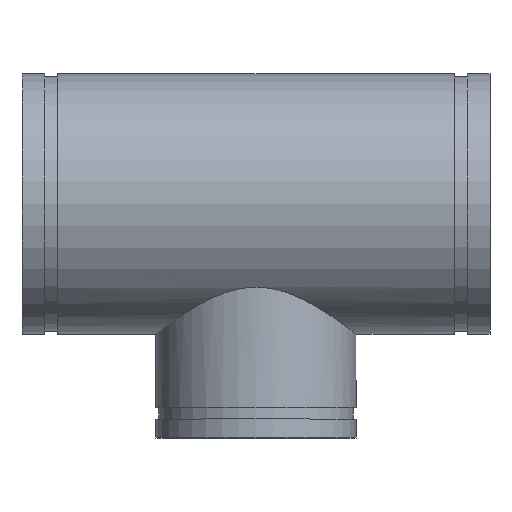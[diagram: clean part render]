
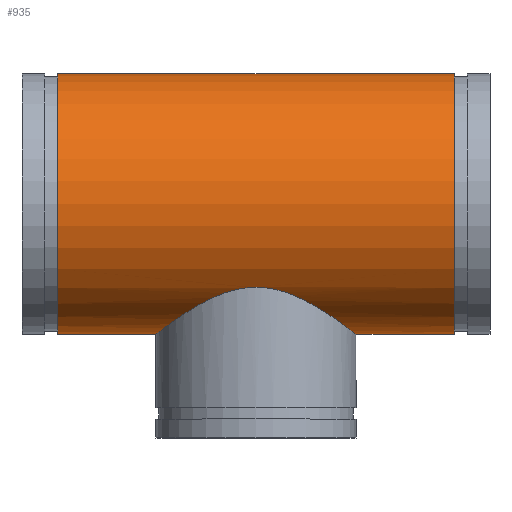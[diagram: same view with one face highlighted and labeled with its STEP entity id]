
A CAD part, top view. The second image highlights one B-rep face of the part: STEP entity #935.
In plain terms, the highlighted cylindrical face has radius 109.537 mm (diameter 219.075 mm), a full revolution.
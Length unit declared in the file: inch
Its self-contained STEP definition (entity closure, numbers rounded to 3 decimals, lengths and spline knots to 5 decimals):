
#61=FACE_BOUND('',#222,.T.);
#67=B_SPLINE_CURVE_WITH_KNOTS('',3,(#1807,#1808,#1809,#1810,#1811,#1812,
#1813,#1814,#1815,#1816,#1817,#1818,#1819,#1820,#1821,#1822,#1823,#1824),
 .UNSPECIFIED.,.F.,.F.,(4,2,2,2,2,2,2,2,4),(0.,1.70492,3.40983,
5.11475,6.81966,8.48329,10.14692,11.81055,
13.47418),.UNSPECIFIED.);
#68=B_SPLINE_CURVE_WITH_KNOTS('',3,(#1825,#1826,#1827,#1828,#1829,#1830,
#1831,#1832,#1833,#1834,#1835,#1836,#1837,#1838,#1839,#1840,#1841,#1842,
#1843,#1844,#1845,#1846,#1847,#1848,#1849,#1850,#1851,#1852,#1853,#1854,
#1855,#1856,#1857,#1858,#1859,#1860,#1861,#1862,#1863,#1864,#1865,#1866,
#1867,#1868,#1869,#1870,#1871,#1872,#1873,#1874),.UNSPECIFIED.,.F.,.F.,
(4,2,2,2,2,2,2,2,2,2,2,2,2,2,2,2,2,2,2,2,2,2,2,2,4),(13.47418,15.13781,
16.80144,18.46507,20.1287,21.83362,23.53853,
25.24345,26.94836,28.65328,30.35819,32.06311,
33.76802,35.43165,37.09528,38.75891,40.42254,
42.08617,43.7498,45.41343,47.07706,48.78198,
50.48689,52.19181,53.89672),.UNSPECIFIED.);
#81=CYLINDRICAL_SURFACE('',#1104,4.3125);
#103=LINE('',#1804,#125);
#125=VECTOR('',#1432,4.3125);
#171=FACE_OUTER_BOUND('',#221,.T.);
#221=EDGE_LOOP('',(#814,#815,#816,#817));
#222=EDGE_LOOP('',(#818,#819));
#326=CIRCLE('',#1087,4.3125);
#337=CIRCLE('',#1103,4.3125);
#424=VERTEX_POINT('',#1772);
#435=VERTEX_POINT('',#1801);
#436=VERTEX_POINT('',#1805);
#437=VERTEX_POINT('',#1806);
#552=EDGE_CURVE('',#424,#424,#326,.T.);
#565=EDGE_CURVE('',#435,#435,#337,.T.);
#566=EDGE_CURVE('',#435,#424,#103,.T.);
#567=EDGE_CURVE('',#436,#437,#67,.T.);
#568=EDGE_CURVE('',#437,#436,#68,.T.);
#814=ORIENTED_EDGE('',*,*,#565,.T.);
#815=ORIENTED_EDGE('',*,*,#566,.T.);
#816=ORIENTED_EDGE('',*,*,#552,.T.);
#817=ORIENTED_EDGE('',*,*,#566,.F.);
#818=ORIENTED_EDGE('',*,*,#567,.T.);
#819=ORIENTED_EDGE('',*,*,#568,.T.);
#935=ADVANCED_FACE('',(#171,#61),#81,.T.);
#1087=AXIS2_PLACEMENT_3D('',#1773,#1394,#1395);
#1103=AXIS2_PLACEMENT_3D('',#1802,#1428,#1429);
#1104=AXIS2_PLACEMENT_3D('',#1803,#1430,#1431);
#1394=DIRECTION('center_axis',(-1.,0.,0.));
#1395=DIRECTION('ref_axis',(0.,-1.,0.));
#1428=DIRECTION('center_axis',(1.,0.,0.));
#1429=DIRECTION('ref_axis',(0.,-1.,0.));
#1430=DIRECTION('center_axis',(-1.,0.,0.));
#1431=DIRECTION('ref_axis',(0.,-1.,0.));
#1432=DIRECTION('',(1.,0.,0.));
#1772=CARTESIAN_POINT('',(6.562,4.3125,0.));
#1773=CARTESIAN_POINT('Origin',(6.562,0.,0.));
#1801=CARTESIAN_POINT('',(-6.562,4.3125,0.));
#1802=CARTESIAN_POINT('Origin',(-6.562,0.,0.));
#1803=CARTESIAN_POINT('Origin',(7.75,0.,0.));
#1804=CARTESIAN_POINT('',(7.75,4.3125,0.));
#1805=CARTESIAN_POINT('',(0.,-2.76134,-3.3125));
#1806=CARTESIAN_POINT('',(-3.3125,-4.3125,0.));
#1807=CARTESIAN_POINT('Ctrl Pts',(0.,-2.76134,
-3.3125));
#1808=CARTESIAN_POINT('Ctrl Pts',(-0.22374,-2.76134,
-3.3125));
#1809=CARTESIAN_POINT('Ctrl Pts',(-0.44747,-2.78936,
-3.28964));
#1810=CARTESIAN_POINT('Ctrl Pts',(-0.8824,-2.89118,
-3.20052));
#1811=CARTESIAN_POINT('Ctrl Pts',(-1.09373,-2.9645,-3.13431));
#1812=CARTESIAN_POINT('Ctrl Pts',(-1.49486,-3.13474,-2.96404));
#1813=CARTESIAN_POINT('Ctrl Pts',(-1.68501,-3.23156,-2.85982));
#1814=CARTESIAN_POINT('Ctrl Pts',(-2.03681,-3.42816,-2.62093));
#1815=CARTESIAN_POINT('Ctrl Pts',(-2.19842,-3.52789,-2.48616));
#1816=CARTESIAN_POINT('Ctrl Pts',(-2.48268,-3.71177,-2.2019));
#1817=CARTESIAN_POINT('Ctrl Pts',(-2.61665,-3.80324,-2.04232));
#1818=CARTESIAN_POINT('Ctrl Pts',(-2.85644,-3.97203,-1.69076));
#1819=CARTESIAN_POINT('Ctrl Pts',(-2.96227,-4.04928,-1.49876));
#1820=CARTESIAN_POINT('Ctrl Pts',(-3.13483,-4.17718,-1.09276));
#1821=CARTESIAN_POINT('Ctrl Pts',(-3.20172,-4.2279,-0.87831));
#1822=CARTESIAN_POINT('Ctrl Pts',(-3.29057,-4.29558,-0.44109));
#1823=CARTESIAN_POINT('Ctrl Pts',(-3.3125,-4.3125,-0.21832));
#1824=CARTESIAN_POINT('Ctrl Pts',(-3.3125,-4.3125,0.));
#1825=CARTESIAN_POINT('Ctrl Pts',(-3.3125,-4.3125,0.));
#1826=CARTESIAN_POINT('Ctrl Pts',(-3.3125,-4.3125,0.21832));
#1827=CARTESIAN_POINT('Ctrl Pts',(-3.29057,-4.29558,0.44109));
#1828=CARTESIAN_POINT('Ctrl Pts',(-3.20172,-4.2279,0.87831));
#1829=CARTESIAN_POINT('Ctrl Pts',(-3.13483,-4.17718,1.09276));
#1830=CARTESIAN_POINT('Ctrl Pts',(-2.96227,-4.04928,1.49876));
#1831=CARTESIAN_POINT('Ctrl Pts',(-2.85644,-3.97203,1.69076));
#1832=CARTESIAN_POINT('Ctrl Pts',(-2.61665,-3.80324,2.04232));
#1833=CARTESIAN_POINT('Ctrl Pts',(-2.48268,-3.71177,2.2019));
#1834=CARTESIAN_POINT('Ctrl Pts',(-2.19842,-3.52789,2.48616));
#1835=CARTESIAN_POINT('Ctrl Pts',(-2.03681,-3.42816,2.62093));
#1836=CARTESIAN_POINT('Ctrl Pts',(-1.68501,-3.23156,2.85982));
#1837=CARTESIAN_POINT('Ctrl Pts',(-1.49486,-3.13474,2.96404));
#1838=CARTESIAN_POINT('Ctrl Pts',(-1.09373,-2.9645,3.13431));
#1839=CARTESIAN_POINT('Ctrl Pts',(-0.8824,-2.89118,
3.20052));
#1840=CARTESIAN_POINT('Ctrl Pts',(-0.44747,-2.78936,
3.28964));
#1841=CARTESIAN_POINT('Ctrl Pts',(-0.22374,-2.76134,
3.3125));
#1842=CARTESIAN_POINT('Ctrl Pts',(0.22374,-2.76134,3.3125));
#1843=CARTESIAN_POINT('Ctrl Pts',(0.44747,-2.78936,3.28964));
#1844=CARTESIAN_POINT('Ctrl Pts',(0.8824,-2.89118,3.20052));
#1845=CARTESIAN_POINT('Ctrl Pts',(1.09373,-2.9645,3.13431));
#1846=CARTESIAN_POINT('Ctrl Pts',(1.49486,-3.13474,2.96404));
#1847=CARTESIAN_POINT('Ctrl Pts',(1.68501,-3.23156,2.85982));
#1848=CARTESIAN_POINT('Ctrl Pts',(2.03681,-3.42816,2.62093));
#1849=CARTESIAN_POINT('Ctrl Pts',(2.19842,-3.52789,2.48616));
#1850=CARTESIAN_POINT('Ctrl Pts',(2.48268,-3.71177,2.2019));
#1851=CARTESIAN_POINT('Ctrl Pts',(2.61665,-3.80324,2.04232));
#1852=CARTESIAN_POINT('Ctrl Pts',(2.85644,-3.97203,1.69076));
#1853=CARTESIAN_POINT('Ctrl Pts',(2.96227,-4.04928,1.49876));
#1854=CARTESIAN_POINT('Ctrl Pts',(3.13483,-4.17718,1.09276));
#1855=CARTESIAN_POINT('Ctrl Pts',(3.20172,-4.2279,0.87831));
#1856=CARTESIAN_POINT('Ctrl Pts',(3.29057,-4.29558,0.44109));
#1857=CARTESIAN_POINT('Ctrl Pts',(3.3125,-4.3125,0.21832));
#1858=CARTESIAN_POINT('Ctrl Pts',(3.3125,-4.3125,-0.21832));
#1859=CARTESIAN_POINT('Ctrl Pts',(3.29057,-4.29558,-0.44109));
#1860=CARTESIAN_POINT('Ctrl Pts',(3.20172,-4.2279,-0.87831));
#1861=CARTESIAN_POINT('Ctrl Pts',(3.13483,-4.17718,-1.09276));
#1862=CARTESIAN_POINT('Ctrl Pts',(2.96227,-4.04928,-1.49876));
#1863=CARTESIAN_POINT('Ctrl Pts',(2.85644,-3.97203,-1.69076));
#1864=CARTESIAN_POINT('Ctrl Pts',(2.61665,-3.80324,-2.04232));
#1865=CARTESIAN_POINT('Ctrl Pts',(2.48268,-3.71177,-2.2019));
#1866=CARTESIAN_POINT('Ctrl Pts',(2.19842,-3.52789,-2.48616));
#1867=CARTESIAN_POINT('Ctrl Pts',(2.03681,-3.42816,-2.62093));
#1868=CARTESIAN_POINT('Ctrl Pts',(1.68501,-3.23156,-2.85982));
#1869=CARTESIAN_POINT('Ctrl Pts',(1.49486,-3.13474,-2.96404));
#1870=CARTESIAN_POINT('Ctrl Pts',(1.09373,-2.9645,-3.13431));
#1871=CARTESIAN_POINT('Ctrl Pts',(0.8824,-2.89118,-3.20052));
#1872=CARTESIAN_POINT('Ctrl Pts',(0.44747,-2.78936,-3.28964));
#1873=CARTESIAN_POINT('Ctrl Pts',(0.22374,-2.76134,-3.3125));
#1874=CARTESIAN_POINT('Ctrl Pts',(0.,-2.76134,
-3.3125));
